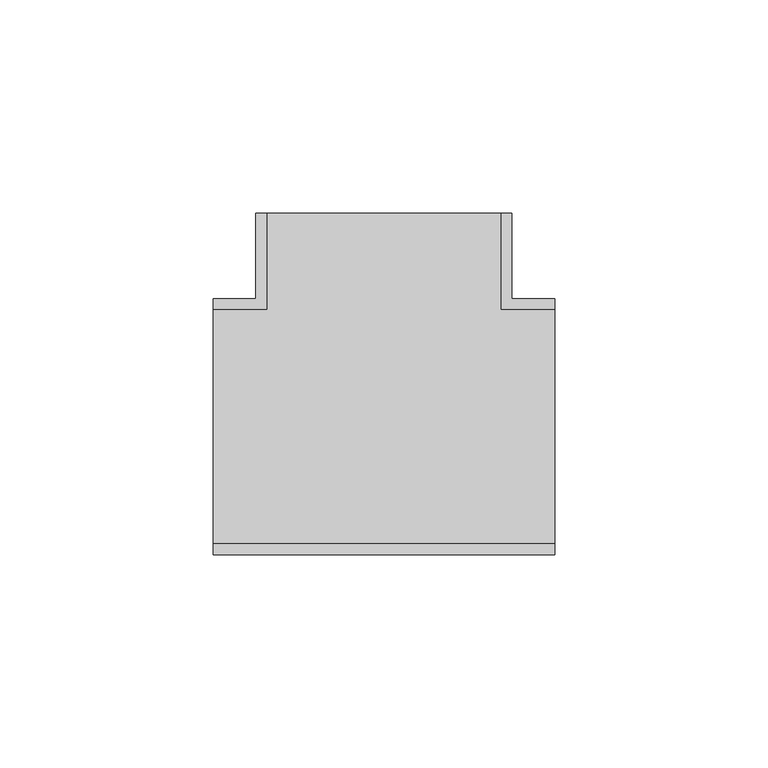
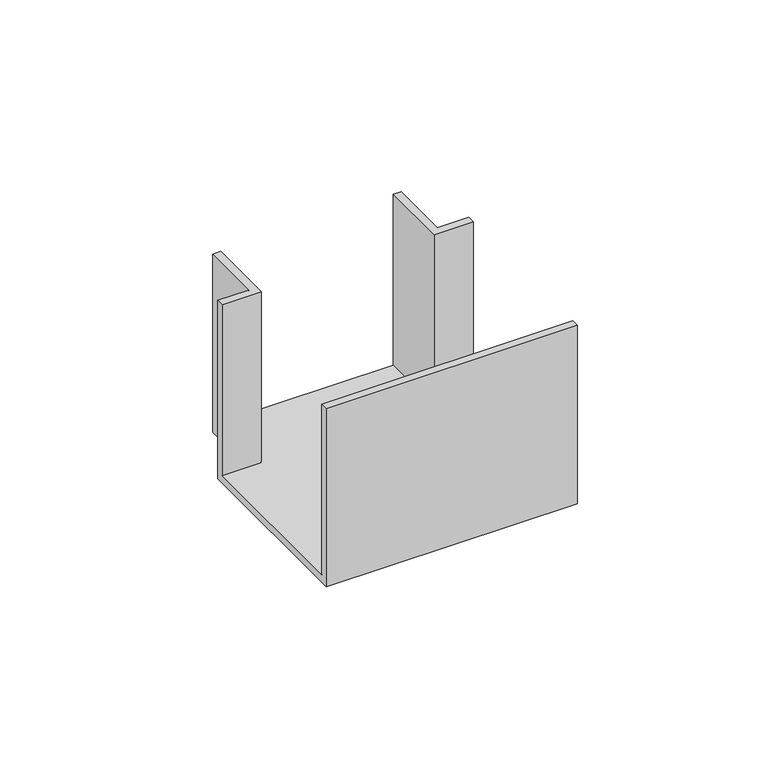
"""IFC4 building model written with IfcOpenShell, lengths in millimetres: cable carrier fitting geometry, КНС_ТройникNTAN_ILC_DKC : Тройник/отвод."""

from ifc_helpers import new_model, si_unit, origin, place, context, project, spatial, faceted_brep, source, transform, mapped, element, save


def cable_carrier_fitting_473acd7f(model_context):
    return source(origin(), model_context, "Body", "Brep", [
        faceted_brep([(40.0, -27.5, -27.5), (40.0, 27.5, -27.5), (27.5, 27.5, -27.5), (27.5, 50.0, -27.5), (-27.5, 50.0, -27.5), (-27.5, 27.5, -27.5), (-40.0, 27.5, -27.5), (-40.0, -27.5, -27.5), (40.0, -30.0, -30.0), (-40.0, -30.0, -30.0), (-40.0, 30.0, -30.0), (-30.0, 30.0, -30.0), (-30.0, 50.0, -30.0), (30.0, 50.0, -30.0), (30.0, 30.0, -30.0), (40.0, 30.0, -30.0), (40.0, 30.0, 30.0), (40.0, 27.5, 30.0), (40.0, -27.5, 30.0), (40.0, -30.0, 30.0), (30.0, 30.0, 30.0), (30.0, 50.0, 30.0), (-30.0, 50.0, 30.0), (-27.5, 50.0, 30.0), (27.5, 50.0, 30.0), (-30.0, 30.0, 30.0), (-40.0, 30.0, 30.0), (-40.0, -30.0, 30.0), (-40.0, -27.5, 30.0), (-40.0, 27.5, 30.0), (27.5, 27.5, 30.0), (-27.5, 27.5, 30.0)], [[[0, 1, 2, 3, 4, 5, 6, 7]], [[8, 9, 10, 11, 12, 13, 14, 15]], [[8, 15, 16, 17, 1, 0, 18, 19]], [[16, 15, 14, 20]], [[20, 14, 13, 21]], [[21, 13, 12, 22, 23, 4, 3, 24]], [[22, 12, 11, 25]], [[25, 11, 10, 26]], [[26, 10, 9, 27, 28, 7, 6, 29]], [[27, 9, 8, 19]], [[20, 21, 24, 30, 17, 16]], [[25, 26, 29, 31, 23, 22]], [[27, 19, 18, 28]], [[31, 29, 6, 5]], [[23, 31, 5, 4]], [[30, 24, 3, 2]], [[17, 30, 2, 1]], [[28, 18, 0, 7]]]),
    ])


if __name__ == "__main__":
    model = new_model("IFC4")
    model_context = context("Model", 3, world=origin())
    ifc_project = project(units=[si_unit("LENGTHUNIT", "METRE", prefix="MILLI")], contexts=[model_context])
    site = spatial("IfcSite", under=ifc_project)
    building = spatial("IfcBuilding", under=site)
    placement = place(None, origin())
    cable_carrier_fitting_shape = cable_carrier_fitting_473acd7f(model_context)
    element("IfcCableCarrierFitting", 1, ObjectType="КНС_ТройникNTAN_ILC_DKC : Тройник/отвод", at=placement, inside=building, context=model_context, shape_type="MappedRepresentation", body=[
        mapped(cable_carrier_fitting_shape, transform((0.0, 0.0, 0.0), x_axis=(1.0, 0.0, 0.0), y_axis=(0.0, 1.0, 0.0), z_axis=(0.0, 0.0, 1.0))),
    ])
    save(model, "model.ifc")
